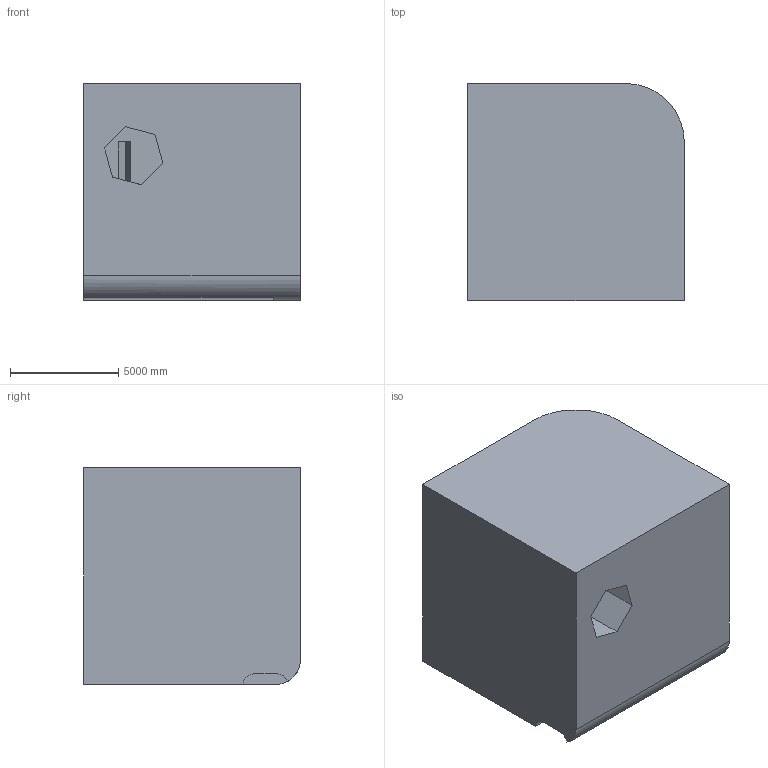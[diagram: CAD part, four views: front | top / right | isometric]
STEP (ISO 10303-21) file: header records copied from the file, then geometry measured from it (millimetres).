
FILE_DESCRIPTION (( 'STEP AP203' ), '1' );
FILE_NAME ('144.STEP', '2022-09-06T15:12:35', ( 'user' ), ( '' ), 'SwSTEP 2.0', 'SolidWorks 2021', '' );
FILE_SCHEMA (( 'CONFIG_CONTROL_DESIGN' ));
Length unit declared in the file: centimetre
Products named in the file (1): 144
Bounding box: 10000 x 10000 x 10000 mm (x, y, z)
Volume: 920300335804.3 mm3; surface area: 686396384.1 mm2
Topology: 1 solids, 1 shells, 27 faces, 75 edges, 50 vertices
Faces by surface type: plane 23, cylinder 4
Entity records: 939 total; most frequent: CARTESIAN_POINT 153, ORIENTED_EDGE 150, DIRECTION 140, EDGE_CURVE 75, LINE 66, VECTOR 66, VERTEX_POINT 50, AXIS2_PLACEMENT_3D 37
